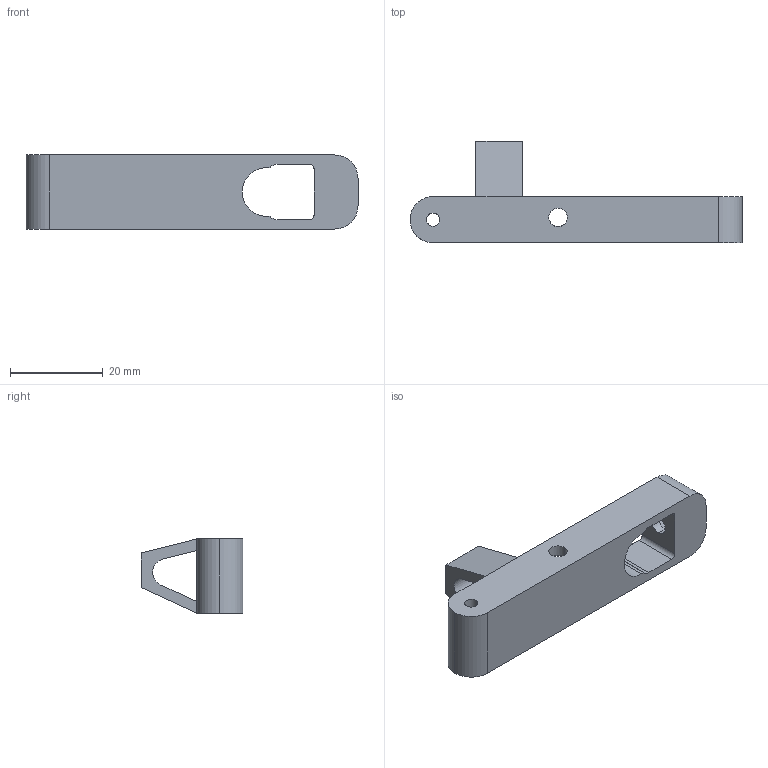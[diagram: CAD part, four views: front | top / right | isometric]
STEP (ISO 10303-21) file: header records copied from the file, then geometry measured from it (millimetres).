
FILE_DESCRIPTION (( 'STEP AP203' ), '1' );
FILE_NAME ('PEN ARM REMAKE for 1 piece A.STEP', '2018-02-21T17:26:32', ( '' ), ( '' ), 'SwSTEP 2.0', 'SolidWorks 2015', '' );
FILE_SCHEMA (( 'CONFIG_CONTROL_DESIGN' ));
Length unit declared in the file: inch
Products named in the file (1): PEN ARM REMAKE for 1 piece A
Bounding box: 71.75 x 22 x 16 mm (x, y, z)
Volume: 7233.9 mm3; surface area: 5598.7 mm2
Topology: 1 solids, 1 shells, 61 faces, 172 edges, 106 vertices
Faces by surface type: cylinder 28, plane 28, sphere 4, torus 1
Entity records: 2050 total; most frequent: CARTESIAN_POINT 358, DIRECTION 349, ORIENTED_EDGE 332, EDGE_CURVE 166, AXIS2_PLACEMENT_3D 123, VERTEX_POINT 104, VECTOR 103, LINE 103
